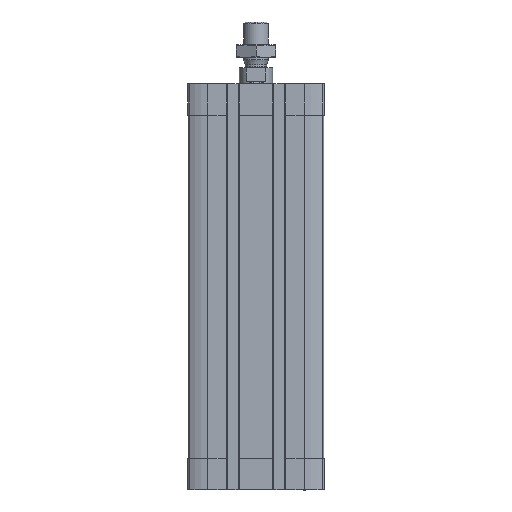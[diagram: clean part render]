
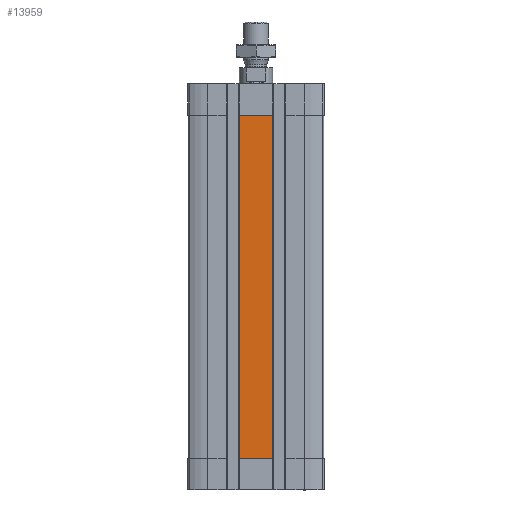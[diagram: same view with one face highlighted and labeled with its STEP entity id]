
A CAD part, front view. The second image highlights one B-rep face of the part: STEP entity #13959.
In plain terms, the highlighted planar face has unit normal (0, -1, 0).
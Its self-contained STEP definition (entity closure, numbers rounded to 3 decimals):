
#148 = LINE ( 'NONE', #1070, #9917 ) ;
#287 = ORIENTED_EDGE ( 'NONE', *, *, #10374, .T. ) ;
#373 = DIRECTION ( 'NONE',  ( 0., -1., 0. ) ) ;
#403 = DIRECTION ( 'NONE',  ( 1., 0., 0. ) ) ;
#497 = CARTESIAN_POINT ( 'NONE',  ( 0., -32.5, -15. ) ) ;
#1070 = CARTESIAN_POINT ( 'NONE',  ( 8., -32.5, -180. ) ) ;
#1281 = VERTEX_POINT ( 'NONE', #16107 ) ;
#2123 = CARTESIAN_POINT ( 'NONE',  ( 8., -32.5, -15. ) ) ;
#2652 = LINE ( 'NONE', #9080, #12410 ) ;
#2818 = CARTESIAN_POINT ( 'NONE',  ( -8., -32.5, -180. ) ) ;
#4120 = VECTOR ( 'NONE', #5551, 1000. ) ;
#4162 = VERTEX_POINT ( 'NONE', #2123 ) ;
#4949 = AXIS2_PLACEMENT_3D ( 'NONE', #2818, #373, #9299 ) ;
#5504 = CARTESIAN_POINT ( 'NONE',  ( -8., -32.5, -180. ) ) ;
#5551 = DIRECTION ( 'NONE',  ( -1., 0., 0. ) ) ;
#6680 = EDGE_CURVE ( 'NONE', #8077, #13674, #9972, .T. ) ;
#6829 = FACE_OUTER_BOUND ( 'NONE', #12820, .T. ) ;
#7072 = ORIENTED_EDGE ( 'NONE', *, *, #8900, .T. ) ;
#8077 = VERTEX_POINT ( 'NONE', #11462 ) ;
#8372 = LINE ( 'NONE', #497, #4120 ) ;
#8900 = EDGE_CURVE ( 'NONE', #4162, #1281, #8372, .T. ) ;
#9080 = CARTESIAN_POINT ( 'NONE',  ( -8., -32.5, -180. ) ) ;
#9299 = DIRECTION ( 'NONE',  ( 0., 0., -1. ) ) ;
#9917 = VECTOR ( 'NONE', #14899, 1000. ) ;
#9925 = ORIENTED_EDGE ( 'NONE', *, *, #6680, .T. ) ;
#9972 = LINE ( 'NONE', #5504, #12491 ) ;
#10374 = EDGE_CURVE ( 'NONE', #1281, #8077, #2652, .T. ) ;
#11462 = CARTESIAN_POINT ( 'NONE',  ( -8., -32.5, -180. ) ) ;
#12410 = VECTOR ( 'NONE', #12827, 1000. ) ;
#12491 = VECTOR ( 'NONE', #403, 1000. ) ;
#12647 = ORIENTED_EDGE ( 'NONE', *, *, #15257, .T. ) ;
#12820 = EDGE_LOOP ( 'NONE', ( #9925, #12647, #7072, #287 ) ) ;
#12827 = DIRECTION ( 'NONE',  ( 0., 0., -1. ) ) ;
#13674 = VERTEX_POINT ( 'NONE', #13688 ) ;
#13688 = CARTESIAN_POINT ( 'NONE',  ( 8., -32.5, -180. ) ) ;
#13959 = ADVANCED_FACE ( 'NONE', ( #6829 ), #15371, .T. ) ;
#14899 = DIRECTION ( 'NONE',  ( 0., 0., 1. ) ) ;
#15257 = EDGE_CURVE ( 'NONE', #13674, #4162, #148, .T. ) ;
#15371 = PLANE ( 'NONE',  #4949 ) ;
#16107 = CARTESIAN_POINT ( 'NONE',  ( -8., -32.5, -15. ) ) ;
